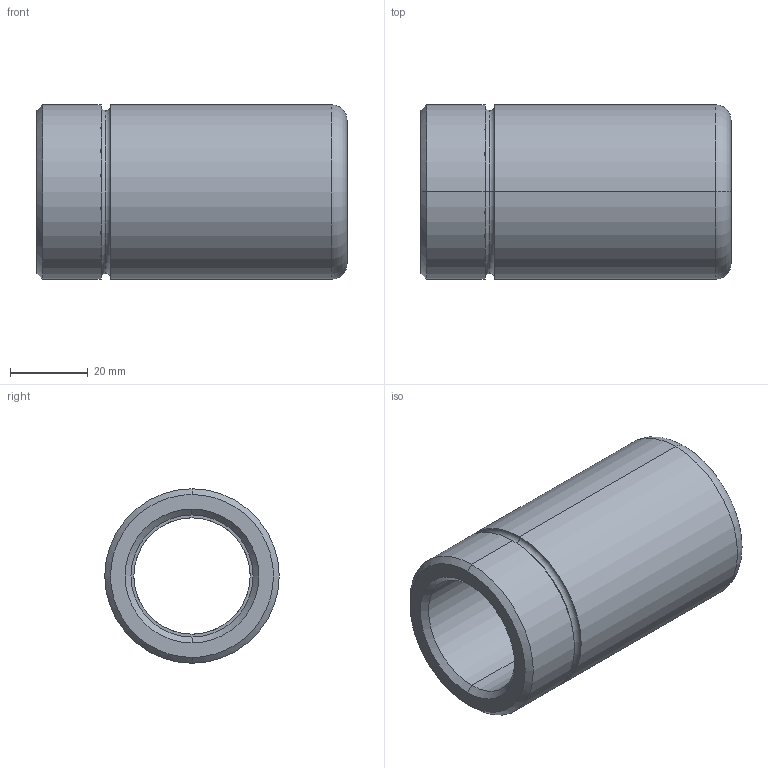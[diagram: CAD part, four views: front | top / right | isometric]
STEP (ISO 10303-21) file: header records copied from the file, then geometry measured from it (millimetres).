
FILE_DESCRIPTION(('CATIA V5 STEP Exchange'),'2;1');
FILE_NAME('C:\Users\Utente\Desktop\IO LAVORO\3D X SITO CF\X SITO\3D files 348\348-30 x 80.stp','2020-12-30T19:55:59+00:00',('none'),('none'),'CATIA Version 5 Release 20 GA (IN-10)','CATIA V5 STEP AP203','none');
FILE_SCHEMA(('CONFIG_CONTROL_DESIGN'));
Length unit declared in the file: millimetre
Products named in the file (1): 348-30 x 80
Bounding box: 80 x 45 x 45 mm (x, y, z)
Volume: 67420.5 mm3; surface area: 20672.3 mm2
Topology: 1 solids, 1 shells, 29 faces, 86 edges, 60 vertices
Faces by surface type: torus 12, cylinder 10, cone 4, plane 3
Entity records: 1154 total; most frequent: CARTESIAN_POINT 344, ORIENTED_EDGE 172, DIRECTION 132, AXIS2_PLACEMENT_3D 90, EDGE_CURVE 86, CIRCLE 60, VERTEX_POINT 60, EDGE_LOOP 32
